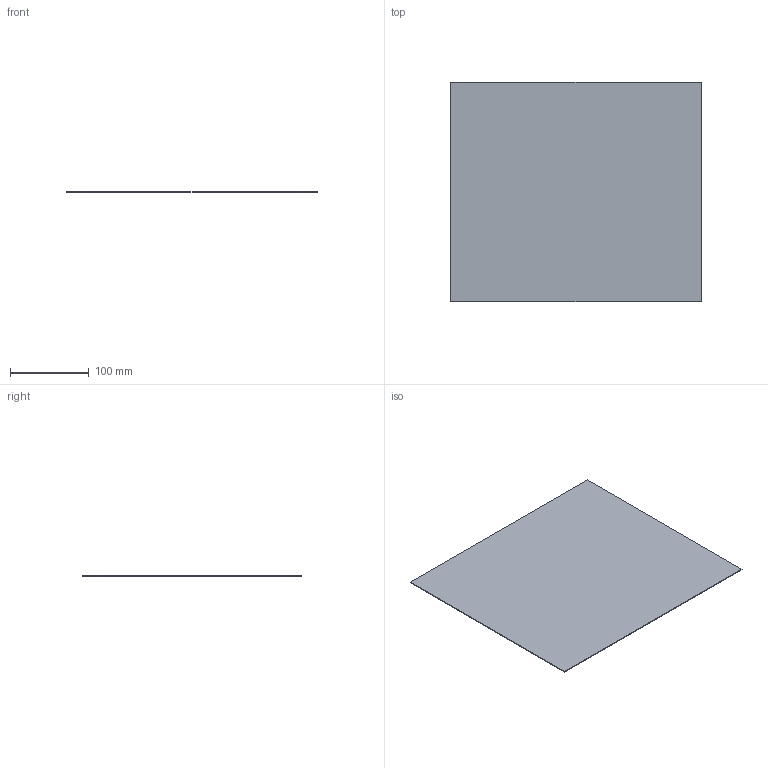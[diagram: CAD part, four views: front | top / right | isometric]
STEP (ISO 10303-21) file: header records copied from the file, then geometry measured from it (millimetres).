
FILE_DESCRIPTION(('Open CASCADE Model'),'2;1');
FILE_NAME('Open CASCADE Shape Model','2026-10-16T18:52:00',('Author'),( 'Open CASCADE'),'Open CASCADE STEP processor 7.8','Open CASCADE 7.8' ,'Unknown');
FILE_SCHEMA(('AUTOMOTIVE_DESIGN { 1 0 10303 214 1 1 1 1 }'));
Length unit declared in the file: millimetre
Products named in the file (1): Open CASCADE STEP translator 7.8 9
Bounding box: 318 x 278 x 1 mm (x, y, z)
Volume: 88404 mm3; surface area: 178000 mm2
Topology: 1 solids, 1 shells, 6 faces, 12 edges, 8 vertices
Faces by surface type: plane 6
Entity records: 322 total; most frequent: CARTESIAN_POINT 51, DIRECTION 50, LINE 36, VECTOR 36, ORIENTED_EDGE 24, PCURVE 24, DEFINITIONAL_REPRESENTATION 24, EDGE_CURVE 12
